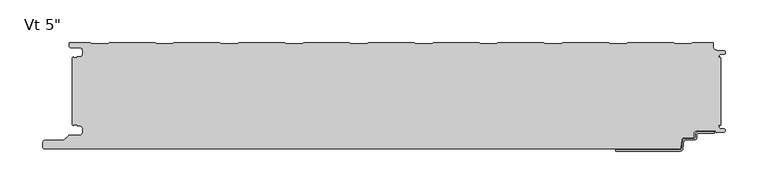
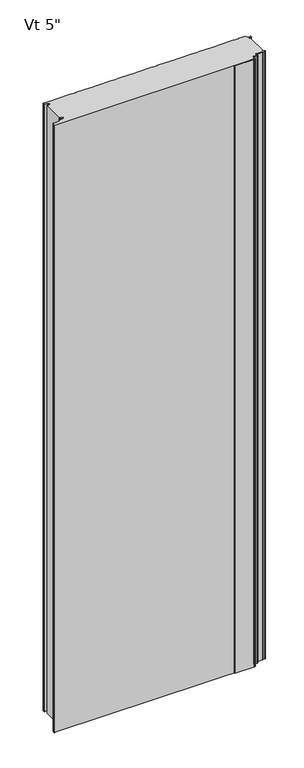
"""IFC4 building model written with IfcOpenShell, lengths in millimetres: plate geometry."""

from ifc_helpers import new_model, si_unit, frame, origin, place, context, project, spatial, polyline, circle_curve, source, transform, mapped, element, save
from ifc_brep_helpers import plane_surface, cylinder_surface, revolved_surface, advanced_brep


def plate_1c37ad96(model_context):
    return source(origin(), model_context, "Body", "AdvancedBrep", [
        advanced_brep(
        [(354.8464083, -105.9008679, 0.0), (373.5916083, -105.9008679, 0.0), (373.5916083, -107.4248679, 0.0), (354.8464083, -107.4248679, 0.0), (353.3224083, -108.9488679, 0.0), (353.3224083, -112.0476679, 0.0), (349.8680083, -115.5020679, 0.0), (338.655451, -115.5020679, 0.0), (337.8963506, -116.1976552, 0.0), (336.701523, -125.7416507, 0.0), (333.6651216, -128.524, 0.0), (258.0978083, -128.5360323, 0.0), (258.0978083, -127.0, 0.0), (333.6651216, -127.0, 0.0), (335.1833223, -125.6088254, 0.0), (336.3781499, -116.0648299, 0.0), (338.655451, -113.9780679, 0.0), (349.8680083, -113.9780679, 0.0), (351.7984083, -112.0476679, 0.0), (351.7984083, -108.9488679, 0.0), (354.8464083, -105.9008679, 2400.0), (351.7984083, -108.9488679, 2400.0), (351.7984083, -112.0476679, 2400.0), (349.8680083, -113.9780679, 2400.0), (338.655451, -113.9780679, 2400.0), (336.3781499, -116.0648299, 2400.0), (335.1833223, -125.6088254, 2400.0), (333.6651216, -127.0, 2400.0), (258.0978083, -127.0, 2400.0), (258.0978083, -128.5360323, 2400.0), (333.6651216, -128.5360323, 2400.0), (336.701523, -125.7416507, 2400.0), (337.8963506, -116.1976552, 2400.0), (338.655451, -115.5020679, 2400.0), (349.8680083, -115.5020679, 2400.0), (353.3224083, -112.0476679, 2400.0), (353.3224083, -108.9488679, 2400.0), (354.8464083, -107.4248679, 2400.0), (373.5916083, -107.4248679, 2400.0), (373.5916083, -105.9008679, 2400.0)],
        [
            (0, 1),
            (1, 2),
            (2, 3),
            (3, 4, circle_curve(frame((354.8464083, -108.9488679, 0.0), z_axis=(0.0, 0.0, 1.0), x_axis=(0.0, 1.0, 0.0)), 1.524)),
            (4, 5),
            (5, 6, circle_curve(frame((349.8680083, -112.0476679, 0.0), z_axis=(0.0, 0.0, -1.0), x_axis=(0.0, 1.0, 0.0)), 3.4544)),
            (6, 7),
            (7, 8, circle_curve(frame((338.655451, -116.2640679, 0.0), z_axis=(0.0, 0.0, 1.0), x_axis=(0.0, 1.0, 0.0)), 0.762)),
            (8, 9),
            (9, 10, circle_curve(frame((333.6651216, -125.476, 0.0), z_axis=(0.0, 0.0, -1.0), x_axis=(0.0, 1.0, 0.0)), 3.048)),
            (10, 11),
            (11, 12),
            (12, 13),
            (13, 14, circle_curve(frame((333.6651216, -125.476, 0.0), z_axis=(0.0, 0.0, 1.0), x_axis=(0.0, 1.0, 0.0)), 1.524)),
            (14, 15),
            (15, 16, circle_curve(frame((338.655451, -116.2640679, 0.0), z_axis=(0.0, 0.0, -1.0), x_axis=(0.0, 1.0, 0.0)), 2.286)),
            (16, 17),
            (17, 18, circle_curve(frame((349.8680083, -112.0476679, 0.0), z_axis=(0.0, 0.0, 1.0), x_axis=(0.0, 1.0, 0.0)), 1.9304)),
            (18, 19),
            (19, 0, circle_curve(frame((354.8464083, -108.9488679, 0.0), z_axis=(0.0, 0.0, -1.0), x_axis=(0.0, 1.0, 0.0)), 3.048)),
            (20, 21, circle_curve(frame((354.8464083, -108.9488679, 2400.0), z_axis=(0.0, 0.0, 1.0), x_axis=(0.0, 1.0, 0.0)), 3.048)),
            (21, 22),
            (22, 23, circle_curve(frame((349.8680083, -112.0476679, 2400.0), z_axis=(0.0, 0.0, -1.0), x_axis=(0.0, 1.0, 0.0)), 1.9304)),
            (23, 24),
            (24, 25, circle_curve(frame((338.655451, -116.2640679, 2400.0), z_axis=(0.0, 0.0, 1.0), x_axis=(0.0, 1.0, 0.0)), 2.286)),
            (25, 26),
            (26, 27, circle_curve(frame((333.6651216, -125.476, 2400.0), z_axis=(0.0, 0.0, -1.0), x_axis=(0.0, 1.0, 0.0)), 1.524)),
            (27, 28),
            (28, 29),
            (29, 30),
            (30, 31, circle_curve(frame((333.6651216, -125.476, 2400.0), z_axis=(0.0, 0.0, 1.0), x_axis=(0.0, 1.0, 0.0)), 3.048)),
            (31, 32),
            (32, 33, circle_curve(frame((338.655451, -116.2640679, 2400.0), z_axis=(0.0, 0.0, -1.0), x_axis=(0.0, 1.0, 0.0)), 0.762)),
            (33, 34),
            (34, 35, circle_curve(frame((349.8680083, -112.0476679, 2400.0), z_axis=(0.0, 0.0, 1.0), x_axis=(0.0, 1.0, 0.0)), 3.4544)),
            (35, 36),
            (36, 37, circle_curve(frame((354.8464083, -108.9488679, 2400.0), z_axis=(0.0, 0.0, -1.0), x_axis=(0.0, 1.0, 0.0)), 1.524)),
            (37, 38),
            (38, 39),
            (39, 20),
            (2, 38),
            (37, 3),
            (15, 25),
            (24, 16),
            (7, 33),
            (32, 8),
            (5, 35),
            (34, 6),
            (1, 39),
            (36, 4),
            (9, 31),
            (30, 10),
            (13, 27),
            (26, 14),
            (0, 20),
            (12, 28),
            (29, 11),
            (23, 17),
            (18, 22),
            (21, 19),
        ],
        [
            plane_surface(frame((373.5916083, -127.0, 0.0), z_axis=(0.0, 0.0, -1.0), x_axis=(-1.0, 0.0, 0.0))),
            plane_surface(frame((373.5916083, -127.0, 2400.0), z_axis=(0.0, 0.0, 1.0), x_axis=(-1.0, 0.0, 0.0))),
            plane_surface(frame((354.8464083, -107.4248679, 0.0), z_axis=(0.0, -1.0, 0.0), x_axis=(0.0, 0.0, 1.0))),
            cylinder_surface(frame((338.655451, -116.2640679, 0.0), z_axis=(0.0, 0.0, -1.0), x_axis=(0.0, 1.0, 0.0)), 2.286),
            revolved_surface(polyline([(338.655451, -115.5020679, 2400.0), (338.655451, -115.5020679, 0.0)]), (338.655451, -116.2640679, 0.0), (0.0, 0.0, 1.0)),
            cylinder_surface(frame((349.8680083, -112.0476679, 0.0), z_axis=(0.0, 0.0, -1.0), x_axis=(0.0, 1.0, 0.0)), 3.4544),
            plane_surface(frame((373.5916083, -107.4248679, 0.0), z_axis=(1.0, 0.0, 0.0), x_axis=(0.0, 0.0, 1.0))),
            revolved_surface(polyline([(354.8464083, -107.4248679, 2400.0), (354.8464083, -107.4248679, 0.0)]), (354.8464083, -108.9488679, 0.0), (0.0, 0.0, 1.0)),
            cylinder_surface(frame((333.6651216, -125.476, 0.0), z_axis=(0.0, 0.0, -1.0), x_axis=(0.0, 1.0, 0.0)), 3.048),
            revolved_surface(polyline([(333.6651216, -123.952, 2400.0), (333.6651216, -123.952, 0.0)]), (333.6651216, -125.476, 0.0), (0.0, 0.0, 1.0)),
            plane_surface(frame((373.5916083, -105.9008679, 0.0), z_axis=(0.0, 1.0, 0.0), x_axis=(0.0, 0.0, 1.0))),
            plane_surface(frame((336.3781499, -116.0648299, 0.0), z_axis=(-0.9922544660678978, 0.12422187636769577, 0.0), x_axis=(0.0, 0.0, 1.0))),
            plane_surface(frame((333.6651216, -127.0, 0.0), z_axis=(0.0, 1.0, 0.0), x_axis=(0.0, 0.0, 1.0))),
            plane_surface(frame((336.701523, -125.7416507, 0.0), z_axis=(0.9922544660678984, -0.12422187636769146, 0.0), x_axis=(0.0, 0.0, 1.0))),
            plane_surface(frame((353.3224083, -112.0476679, 0.0), z_axis=(1.0, 0.0, 0.0), x_axis=(0.0, 0.0, 1.0))),
            plane_surface(frame((258.0978083, -128.5360323, 0.0), z_axis=(0.0, -1.0, 0.0), x_axis=(0.0, 0.0, 1.0))),
            plane_surface(frame((258.0978083, -127.0, 0.0), z_axis=(-1.0, 0.0, 0.0), x_axis=(0.0, 0.0, 1.0))),
            plane_surface(frame((349.8680083, -113.9780679, 0.0), z_axis=(0.0, 1.0, 0.0), x_axis=(0.0, 0.0, 1.0))),
            plane_surface(frame((351.7984083, -108.9488679, 0.0), z_axis=(-1.0, 0.0, 0.0), x_axis=(0.0, 0.0, 1.0))),
            plane_surface(frame((338.655451, -115.5020679, 0.0), z_axis=(0.0, -1.0, 0.0), x_axis=(0.0, 0.0, 1.0))),
            revolved_surface(polyline([(349.8680083, -110.11726789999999, 2400.0), (349.8680083, -110.11726789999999, 0.0)]), (349.8680083, -112.0476679, 0.0), (0.0, 0.0, 1.0)),
            cylinder_surface(frame((354.8464083, -108.9488679, 0.0), z_axis=(0.0, 0.0, -1.0), x_axis=(0.0, 1.0, 0.0)), 3.048),
        ],
        [
            (0, [[1, 2, 3, 4, 5, 6, 7, 8, 9, 10, 11, 12, 13, 14, 15, 16, 17, 18, 19, 20]]),
            (1, [[21, 22, 23, 24, 25, 26, 27, 28, 29, 30, 31, 32, 33, 34, 35, 36, 37, 38, 39, 40]]),
            (2, [[41, -38, 42, -3]]),
            (3, [[43, -25, 44, -16]]),
            (4, [[45, -33, 46, -8]]),
            (5, [[47, -35, 48, -6]]),
            (6, [[49, -39, -41, -2]]),
            (7, [[-42, -37, 50, -4]]),
            (8, [[51, -31, 52, -10]]),
            (9, [[53, -27, 54, -14]]),
            (10, [[55, -40, -49, -1]]),
            (11, [[-54, -26, -43, -15]]),
            (12, [[56, -28, -53, -13]]),
            (13, [[-46, -32, -51, -9]]),
            (14, [[-50, -36, -47, -5]]),
            (15, [[-52, -30, 57, -11]]),
            (16, [[-57, -29, -56, -12]]),
            (17, [[-44, -24, 58, -17]]),
            (18, [[59, -22, 60, -19]]),
            (19, [[-48, -34, -45, -7]]),
            (20, [[-58, -23, -59, -18]]),
            (21, [[-60, -21, -55, -20]]),
        ],
    ),
        advanced_brep(
        [(-379.9683001, -98.6708722, 2400.0), (-378.7671761, -97.5013975, 2400.0), (-375.0087827, -97.5013975, 2400.0), (-375.0087827, -98.8998764, 2400.0), (-372.3096717, -98.8998764, 2400.0), (-368.9596764, -102.2498717, 2400.0), (-368.9596764, -106.6498629, 2400.0), (-372.3096717, -109.9998582, 2400.0), (-384.1205608, -109.9998582, 2400.0), (-385.3226385, -110.4977751, 2400.0), (-390.8247096, -115.9998462, 2400.0), (-412.9198392, -115.9998462, 2400.0), (-415.5765709, -118.2184482, 2400.0), (-416.0125699, -123.2002691, 2400.0), (-413.4521176, -125.994594, 2400.0), (332.515622, -125.9999973, 2400.0), (334.4669057, -124.2149232, 2400.0), (335.221161, -115.7539464, 2400.0), (338.3653654, -112.9906435, 2400.0), (348.4583308, -112.9906435, 2400.0), (349.4097394, -112.0392348, 2400.0), (349.4097394, -108.8955794, 2400.0), (353.4091924, -104.8961265, 2400.0), (374.5895515, -104.8961265, 2400.0), (375.7334028, -106.8769743, 2400.0), (384.706811, -106.521714, 2400.0), (384.7037148, -102.3211364, 2400.0), (380.6977997, -102.0767215, 2400.0), (378.9686884, -100.2819089, 2400.0), (378.9686884, -97.4973623, 2400.0), (379.9686884, -97.4973623, 2400.0), (379.9686884, -99.0848623, 2400.0), (381.0, -98.0535507, 2400.0), (381.0, -18.6184498, 2400.0), (379.9686884, -17.5871382, 2400.0), (379.9686884, -19.0015261, 2400.0), (378.9686884, -19.0015261, 2400.0), (378.9686884, -16.6743434, 2400.0), (380.6513685, -14.9256402, 2400.0), (384.7921924, -14.7059795, 2400.0), (384.7931719, -10.4046415, 2400.0), (376.3016499, -9.9974338, 2400.0), (372.4787013, -6.002598, 2400.0), (372.4787013, -0.9999973, 2400.0), (347.9790963, -0.9999973, 2400.0), (346.5934634, -2.200228, 2400.0), (327.2182971, -2.200228, 2400.0), (325.8326641, -0.9999973, 2400.0), (271.7792487, -0.9999973, 2400.0), (270.3936158, -2.200228, 2400.0), (251.0184495, -2.200228, 2400.0), (249.6328165, -0.9999973, 2400.0), (195.5794011, -0.9999973, 2400.0), (194.1937682, -2.200228, 2400.0), (174.8186019, -2.200228, 2400.0), (173.4329689, -0.9999973, 2400.0), (119.3795535, -0.9999973, 2400.0), (117.9939206, -2.200228, 2400.0), (98.6187543, -2.200228, 2400.0), (97.2331213, -0.9999973, 2400.0), (43.1797059, -0.9999973, 2400.0), (41.794073, -2.200228, 2400.0), (22.4189067, -2.200228, 2400.0), (21.0332737, -0.9999973, 2400.0), (-33.0201417, -0.9999973, 2400.0), (-34.4057746, -2.200228, 2400.0), (-53.7809409, -2.200228, 2400.0), (-55.1665739, -0.9999973, 2400.0), (-109.2199893, -0.9999973, 2400.0), (-110.6056222, -2.200228, 2400.0), (-129.9807885, -2.200228, 2400.0), (-131.3664215, -0.9999973, 2400.0), (-185.4198369, -0.9999973, 2400.0), (-186.8054698, -2.200228, 2400.0), (-206.1806361, -2.200228, 2400.0), (-207.5662691, -0.9999973, 2400.0), (-261.6196845, -0.9999973, 2400.0), (-263.0053174, -2.200228, 2400.0), (-282.3804837, -2.200228, 2400.0), (-283.7661167, -0.9999973, 2400.0), (-337.8195321, -0.9999973, 2400.0), (-339.205165, -2.200228, 2400.0), (-358.5803313, -2.200228, 2400.0), (-359.965974, -0.9999889, 2400.0), (-384.4662506, -0.9999889, 2400.0), (-384.4662506, -5.2315362, 2400.0), (-382.6962564, -7.0015304, 2400.0), (-372.2762778, -7.0015304, 2400.0), (-368.976282, -10.3015263, 2400.0), (-368.976282, -14.7015175, 2400.0), (-372.2762777, -18.0015132, 2400.0), (-374.9684875, -18.0015132, 2400.0), (-374.9684875, -19.0015077, 2400.0), (-378.9686911, -19.0015077, 2400.0), (-379.9686883, -18.0015165, 2400.0), (-381.0, -19.0328281, 2400.0), (-381.0, -97.6391724, 2400.0), (-379.9683001, -98.6708722, 0.0), (-381.0, -97.6391724, 0.0), (-381.0, -19.0328281, 0.0), (-379.9686883, -18.0015165, 0.0), (-378.9686911, -19.0015077, 0.0), (-374.9684875, -19.0015077, 0.0), (-374.9684875, -18.0015132, 0.0), (-372.2762777, -18.0015132, 0.0), (-368.976282, -14.7015175, 0.0), (-368.976282, -10.3015263, 0.0), (-372.2762778, -7.0015304, 0.0), (-382.6962564, -7.0015304, 0.0), (-384.4662506, -5.2315362, 0.0), (-384.4662506, -0.9999889, 0.0), (-359.965974, -0.9999889, 0.0), (-358.5803313, -2.200228, 0.0), (-339.205165, -2.200228, 0.0), (-337.8195321, -0.9999973, 0.0), (-283.7661167, -0.9999973, 0.0), (-282.3804837, -2.200228, 0.0), (-263.0053174, -2.200228, 0.0), (-261.6196845, -0.9999973, 0.0), (-207.5662691, -0.9999973, 0.0), (-206.1806361, -2.200228, 0.0), (-186.8054698, -2.200228, 0.0), (-185.4198369, -0.9999973, 0.0), (-131.3664215, -0.9999973, 0.0), (-129.9807885, -2.200228, 0.0), (-110.6056222, -2.200228, 0.0), (-109.2199893, -0.9999973, 0.0), (-55.1665739, -0.9999973, 0.0), (-53.7809409, -2.200228, 0.0), (-34.4057746, -2.200228, 0.0), (-33.0201417, -0.9999973, 0.0), (21.0332737, -0.9999973, 0.0), (22.4189067, -2.200228, 0.0), (41.794073, -2.200228, 0.0), (43.1797059, -0.9999973, 0.0), (97.2331213, -0.9999973, 0.0), (98.6187543, -2.200228, 0.0), (117.9939206, -2.200228, 0.0), (119.3795535, -0.9999973, 0.0), (173.4329689, -0.9999973, 0.0), (174.8186019, -2.200228, 0.0), (194.1937682, -2.200228, 0.0), (195.5794011, -0.9999973, 0.0), (249.6328165, -0.9999973, 0.0), (251.0184495, -2.200228, 0.0), (270.3936158, -2.200228, 0.0), (271.7792487, -0.9999973, 0.0), (325.8326641, -0.9999973, 0.0), (327.2182971, -2.200228, 0.0), (346.5934634, -2.200228, 0.0), (347.9790963, -0.9999973, 0.0), (372.4787013, -0.9999973, 0.0), (372.4787013, -6.002598, 0.0), (376.3016499, -9.9974338, 0.0), (384.7931719, -10.4046415, 0.0), (384.7921924, -14.7059795, 0.0), (380.6513685, -14.9256402, 0.0), (378.9686884, -16.6743434, 0.0), (378.9686884, -19.0015261, 0.0), (379.9686884, -19.0015261, 0.0), (379.9686884, -17.5871382, 0.0), (381.0, -18.6184498, 0.0), (381.0, -98.0535507, 0.0), (379.9686884, -99.0848623, 0.0), (379.9686884, -97.4973623, 0.0), (378.9686884, -97.4973623, 0.0), (378.9686884, -100.2819089, 0.0), (380.6977997, -102.0767215, 0.0), (384.7037148, -102.3211364, 0.0), (384.706811, -106.521714, 0.0), (375.7334028, -106.8769743, 0.0), (374.5895515, -104.8961265, 0.0), (353.4091924, -104.8961265, 0.0), (349.4097394, -108.8955794, 0.0), (349.4097394, -112.0392348, 0.0), (348.4583308, -112.9906435, 0.0), (338.3653654, -112.9906435, 0.0), (335.221161, -115.7539464, 0.0), (334.4669057, -124.2149232, 0.0), (332.515622, -125.9999973, 0.0), (-413.4521176, -125.9999973, 0.0), (-416.0125699, -123.2002691, 0.0), (-415.5765709, -118.2184482, 0.0), (-412.9198392, -115.9998462, 0.0), (-390.8247096, -115.9998462, 0.0), (-385.3226385, -110.4977751, 0.0), (-384.1205608, -109.9998582, 0.0), (-372.3096717, -109.9998582, 0.0), (-368.9596764, -106.6498629, 0.0), (-368.9596764, -102.2498717, 0.0), (-372.3096717, -98.8998764, 0.0), (-375.0087827, -98.8998764, 0.0), (-375.0087827, -97.5013975, 0.0), (-378.7671761, -97.5013975, 0.0)],
        [
            (0, 1, circle_curve(frame((-378.7686908, -98.7013942, 2400.0), z_axis=(0.0, 0.0, -1.0), x_axis=(-1.0, 0.0, 0.0)), 1.1999976)),
            (1, 2),
            (2, 3),
            (3, 4),
            (4, 5, circle_curve(frame((-372.3096717, -102.2498717, 2400.0), z_axis=(0.0, 0.0, -1.0), x_axis=(-1.0, 0.0, 0.0)), 3.3499953)),
            (5, 6),
            (6, 7, circle_curve(frame((-372.3096717, -106.6498629, 2400.0), z_axis=(0.0, 0.0, -1.0), x_axis=(-1.0, 0.0, 0.0)), 3.3499953)),
            (7, 8),
            (8, 9, circle_curve(frame((-384.1205608, -111.6998528, 2400.0), z_axis=(0.0, 0.0, 1.0), x_axis=(-1.0, 0.0, 0.0)), 1.6999946)),
            (9, 10),
            (10, 11),
            (11, 12, circle_curve(frame((-412.9198392, -118.6998388, 2400.0), z_axis=(0.0, 0.0, 1.0), x_axis=(-1.0, 0.0, 0.0)), 2.6999926)),
            (12, 13),
            (13, 14, circle_curve(frame((-413.4521176, -123.4243547, 2400.0), z_axis=(0.0, 0.0, 1.0), x_axis=(-1.0, 0.0, 0.0)), 2.5702393)),
            (14, 15),
            (15, 16, circle_curve(frame((332.515622, -124.0409756, 2400.0), z_axis=(0.0, 0.0, 1.0), x_axis=(-1.0, 0.0, 0.0)), 1.9590216)),
            (16, 17),
            (17, 18, circle_curve(frame((338.2396267, -116.0180294, 2400.0), z_axis=(0.0, 0.0, -1.0), x_axis=(-1.0, 0.0, 0.0)), 3.0299959)),
            (18, 19),
            (19, 20, circle_curve(frame((348.4583308, -112.0392348, 2400.0), z_axis=(0.0, 0.0, 1.0), x_axis=(-1.0, 0.0, 0.0)), 0.9514087)),
            (20, 21),
            (21, 22, circle_curve(frame((353.4091924, -108.8955794, 2400.0), z_axis=(0.0, 0.0, -1.0), x_axis=(-1.0, 0.0, 0.0)), 3.9994529)),
            (22, 23),
            (23, 24),
            (24, 25),
            (25, 26, circle_curve(frame((384.6236622, -104.4214853, 2400.0), z_axis=(0.0, 0.0, 1.0), x_axis=(-1.0, 0.0, 0.0)), 2.1018739)),
            (26, 27),
            (27, 28, circle_curve(frame((380.8099653, -100.2383479, 2400.0), z_axis=(0.0, 0.0, -1.0), x_axis=(-1.0, 0.0, 0.0)), 1.8417922)),
            (28, 29),
            (29, 30),
            (30, 31),
            (31, 32),
            (32, 33),
            (33, 34),
            (34, 35),
            (35, 36),
            (36, 37),
            (37, 38, circle_curve(frame((380.7186869, -16.6743434, 2400.0), z_axis=(0.0, 0.0, -1.0), x_axis=(1.0, 0.0, 0.0)), 1.7499985)),
            (38, 39),
            (39, 40, circle_curve(frame((384.6781032, -12.5552844, 2400.0), z_axis=(0.0, 0.0, 1.0), x_axis=(1.0, 0.0, 0.0)), 2.153719)),
            (40, 41),
            (41, 42, circle_curve(frame((376.4939817, -5.9867311, 2400.0), z_axis=(0.0, 0.0, -1.0), x_axis=(1.0, 0.0, 0.0)), 4.0153117)),
            (42, 43),
            (43, 44),
            (44, 45),
            (45, 46),
            (46, 47),
            (47, 48),
            (48, 49),
            (49, 50),
            (50, 51),
            (51, 52),
            (52, 53),
            (53, 54),
            (54, 55),
            (55, 56),
            (56, 57),
            (57, 58),
            (58, 59),
            (59, 60),
            (60, 61),
            (61, 62),
            (62, 63),
            (63, 64),
            (64, 65),
            (65, 66),
            (66, 67),
            (67, 68),
            (68, 69),
            (69, 70),
            (70, 71),
            (71, 72),
            (72, 73),
            (73, 74),
            (74, 75),
            (75, 76),
            (76, 77),
            (77, 78),
            (78, 79),
            (79, 80),
            (80, 81),
            (81, 82),
            (82, 83),
            (83, 84),
            (84, 85),
            (85, 86, circle_curve(frame((-382.6962564, -5.2315362, 2400.0), z_axis=(0.0, 0.0, 1.0), x_axis=(1.0, 0.0, 0.0)), 1.7699942)),
            (86, 87),
            (87, 88, circle_curve(frame((-372.2762778, -10.3015263, 2400.0), z_axis=(0.0, 0.0, -1.0), x_axis=(1.0, 0.0, 0.0)), 3.2999959)),
            (88, 89),
            (89, 90, circle_curve(frame((-372.2762777, -14.7015175, 2400.0), z_axis=(0.0, 0.0, -1.0), x_axis=(1.0, 0.0, 0.0)), 3.2999957)),
            (90, 91),
            (91, 92),
            (92, 93),
            (93, 94, circle_curve(frame((-378.9686911, -18.0015105, 2400.0), z_axis=(0.0, 0.0, -1.0), x_axis=(1.0, 0.0, 0.0)), 0.9999972)),
            (94, 95),
            (95, 96),
            (96, 0),
            (97, 98),
            (98, 99),
            (99, 100),
            (100, 101, circle_curve(frame((-378.9686911, -18.0015105, 0.0), z_axis=(0.0, 0.0, 1.0), x_axis=(1.0, 0.0, 0.0)), 0.9999972)),
            (101, 102),
            (102, 103),
            (103, 104),
            (104, 105, circle_curve(frame((-372.2762777, -14.7015175, 0.0), z_axis=(0.0, 0.0, 1.0), x_axis=(1.0, 0.0, 0.0)), 3.2999957)),
            (105, 106),
            (106, 107, circle_curve(frame((-372.2762778, -10.3015263, 0.0), z_axis=(0.0, 0.0, 1.0), x_axis=(1.0, 0.0, 0.0)), 3.2999959)),
            (107, 108),
            (108, 109, circle_curve(frame((-382.6962564, -5.2315362, 0.0), z_axis=(0.0, 0.0, -1.0), x_axis=(1.0, 0.0, 0.0)), 1.7699942)),
            (109, 110),
            (110, 111),
            (111, 112),
            (112, 113),
            (113, 114),
            (114, 115),
            (115, 116),
            (116, 117),
            (117, 118),
            (118, 119),
            (119, 120),
            (120, 121),
            (121, 122),
            (122, 123),
            (123, 124),
            (124, 125),
            (125, 126),
            (126, 127),
            (127, 128),
            (128, 129),
            (129, 130),
            (130, 131),
            (131, 132),
            (132, 133),
            (133, 134),
            (134, 135),
            (135, 136),
            (136, 137),
            (137, 138),
            (138, 139),
            (139, 140),
            (140, 141),
            (141, 142),
            (142, 143),
            (143, 144),
            (144, 145),
            (145, 146),
            (146, 147),
            (147, 148),
            (148, 149),
            (149, 150),
            (150, 151),
            (151, 152),
            (152, 153, circle_curve(frame((376.4939817, -5.9867311, 0.0), z_axis=(0.0, 0.0, 1.0), x_axis=(1.0, 0.0, 0.0)), 4.0153117)),
            (153, 154),
            (154, 155, circle_curve(frame((384.6781032, -12.5552844, 0.0), z_axis=(0.0, 0.0, -1.0), x_axis=(1.0, 0.0, 0.0)), 2.153719)),
            (155, 156),
            (156, 157, circle_curve(frame((380.7186869, -16.6743434, 0.0), z_axis=(0.0, 0.0, 1.0), x_axis=(1.0, 0.0, 0.0)), 1.7499985)),
            (157, 158),
            (158, 159),
            (159, 160),
            (160, 161),
            (161, 162),
            (162, 163),
            (163, 164),
            (164, 165),
            (165, 166),
            (166, 167, circle_curve(frame((380.8099653, -100.2383479, 0.0), z_axis=(0.0, 0.0, 1.0), x_axis=(-1.0, 0.0, 0.0)), 1.8417922)),
            (167, 168),
            (168, 169, circle_curve(frame((384.6236622, -104.4214853, 0.0), z_axis=(0.0, 0.0, -1.0), x_axis=(-1.0, 0.0, 0.0)), 2.1018739)),
            (169, 170),
            (170, 171),
            (171, 172),
            (172, 173, circle_curve(frame((353.4091924, -108.8955794, 0.0), z_axis=(0.0, 0.0, 1.0), x_axis=(-1.0, 0.0, 0.0)), 3.9994529)),
            (173, 174),
            (174, 175, circle_curve(frame((348.4583308, -112.0392348, 0.0), z_axis=(0.0, 0.0, -1.0), x_axis=(-1.0, 0.0, 0.0)), 0.9514087)),
            (175, 176),
            (176, 177, circle_curve(frame((338.2396267, -116.0180294, 0.0), z_axis=(0.0, 0.0, 1.0), x_axis=(-1.0, 0.0, 0.0)), 3.0299959)),
            (177, 178),
            (178, 179, circle_curve(frame((332.515622, -124.0409756, 0.0), z_axis=(0.0, 0.0, -1.0), x_axis=(-1.0, 0.0, 0.0)), 1.9590216)),
            (179, 180),
            (180, 181, circle_curve(frame((-413.4521176, -123.4243547, 0.0), z_axis=(0.0, 0.0, -1.0), x_axis=(-1.0, 0.0, 0.0)), 2.5702393)),
            (181, 182),
            (182, 183, circle_curve(frame((-412.9198392, -118.6998388, 0.0), z_axis=(0.0, 0.0, -1.0), x_axis=(-1.0, 0.0, 0.0)), 2.6999926)),
            (183, 184),
            (184, 185),
            (185, 186, circle_curve(frame((-384.1205608, -111.6998528, 0.0), z_axis=(0.0, 0.0, -1.0), x_axis=(-1.0, 0.0, 0.0)), 1.6999946)),
            (186, 187),
            (187, 188, circle_curve(frame((-372.3096717, -106.6498629, 0.0), z_axis=(0.0, 0.0, 1.0), x_axis=(-1.0, 0.0, 0.0)), 3.3499953)),
            (188, 189),
            (189, 190, circle_curve(frame((-372.3096717, -102.2498717, 0.0), z_axis=(0.0, 0.0, 1.0), x_axis=(-1.0, 0.0, 0.0)), 3.3499953)),
            (190, 191),
            (191, 192),
            (192, 193),
            (193, 97, circle_curve(frame((-378.7686908, -98.7013942, 0.0), z_axis=(0.0, 0.0, 1.0), x_axis=(-1.0, 0.0, 0.0)), 1.1999976)),
            (96, 98),
            (97, 0),
            (95, 99),
            (32, 162),
            (161, 33),
            (31, 163),
            (30, 164),
            (29, 165),
            (28, 166),
            (27, 167),
            (26, 168),
            (25, 169),
            (24, 170),
            (23, 171),
            (22, 172),
            (21, 173),
            (20, 174),
            (19, 175),
            (18, 176),
            (17, 177),
            (16, 178),
            (15, 179),
            (14, 180),
            (13, 181),
            (12, 182),
            (11, 183),
            (10, 184),
            (9, 185),
            (8, 186),
            (7, 187),
            (6, 188),
            (5, 189),
            (4, 190),
            (3, 191),
            (2, 192),
            (1, 193),
            (94, 100),
            (93, 101),
            (92, 102),
            (91, 103),
            (90, 104),
            (89, 105),
            (88, 106),
            (87, 107),
            (86, 108),
            (85, 109),
            (84, 110),
            (83, 111),
            (82, 112),
            (81, 113),
            (80, 114),
            (79, 115),
            (78, 116),
            (77, 117),
            (76, 118),
            (75, 119),
            (74, 120),
            (73, 121),
            (72, 122),
            (71, 123),
            (70, 124),
            (69, 125),
            (68, 126),
            (67, 127),
            (66, 128),
            (65, 129),
            (64, 130),
            (63, 131),
            (62, 132),
            (61, 133),
            (60, 134),
            (59, 135),
            (58, 136),
            (57, 137),
            (56, 138),
            (55, 139),
            (54, 140),
            (53, 141),
            (52, 142),
            (51, 143),
            (50, 144),
            (49, 145),
            (48, 146),
            (47, 147),
            (46, 148),
            (45, 149),
            (44, 150),
            (43, 151),
            (42, 152),
            (41, 153),
            (40, 154),
            (39, 155),
            (38, 156),
            (37, 157),
            (36, 158),
            (35, 159),
            (34, 160),
        ],
        [
            plane_surface(frame((0.0, -125.9999973, 2400.0), z_axis=(0.0, 0.0, 1.0), x_axis=(0.0, -1.0, 0.0))),
            plane_surface(frame((0.0, -125.9999973, 0.0), z_axis=(0.0, 0.0, -1.0), x_axis=(0.0, -1.0, 0.0))),
            plane_surface(frame((-379.9683001, -98.6708722, 2400.0), z_axis=(-0.707106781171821, -0.707106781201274, 0.0), x_axis=(0.0, 0.0, -1.0))),
            plane_surface(frame((-381.0, -97.6391724, 2400.0), z_axis=(-1.0, 0.0, 0.0), x_axis=(0.0, 0.0, -1.0))),
            plane_surface(frame((381.0, -96.6391724, 2400.0), z_axis=(1.0, 0.0, 0.0), x_axis=(0.0, 0.0, -1.0))),
            plane_surface(frame((381.0, -98.0535507, 2400.0), z_axis=(0.7071067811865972, -0.7071067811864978, 0.0), x_axis=(0.0, 0.0, -1.0))),
            plane_surface(frame((379.9686884, -99.0848623, 2400.0), z_axis=(-1.0, 0.0, 0.0), x_axis=(0.0, 0.0, -1.0))),
            plane_surface(frame((379.9686884, -97.4973623, 2400.0), z_axis=(0.0, -1.0, 0.0), x_axis=(0.0, 0.0, -1.0))),
            plane_surface(frame((378.9686884, -97.4973623, 2400.0), z_axis=(1.0, 0.0, 0.0), x_axis=(0.0, 0.0, -1.0))),
            revolved_surface(polyline([(378.9681731, -100.2383479, 0.0), (378.9681731, -100.2383479, 2400.0)]), (380.8099653, -100.2383479, 2400.0), (0.0, 0.0, -1.0)),
            plane_surface(frame((380.6977997, -102.0767215, 2400.0), z_axis=(0.06090025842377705, 0.9981438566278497, 0.0), x_axis=(0.0, 0.0, -1.0))),
            cylinder_surface(frame((384.6236622, -104.4214853, 2400.0), z_axis=(0.0, 0.0, 1.0), x_axis=(-1.0, 0.0, 0.0)), 2.1018739),
            plane_surface(frame((384.706811, -106.521714, 2400.0), z_axis=(0.039559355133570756, -0.9992172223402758, 0.0), x_axis=(0.0, 0.0, -1.0))),
            plane_surface(frame((375.7334028, -106.8769743, 2400.0), z_axis=(-0.8659859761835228, -0.5000682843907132, 0.0), x_axis=(0.0, 0.0, -1.0))),
            plane_surface(frame((374.5895515, -104.8961265, 2400.0), z_axis=(0.0, -1.0, 0.0), x_axis=(0.0, 0.0, -1.0))),
            revolved_surface(polyline([(349.4097395, -108.8955794, 0.0), (349.4097395, -108.8955794, 2400.0)]), (353.4091924, -108.8955794, 2400.0), (0.0, 0.0, -1.0)),
            plane_surface(frame((349.4097394, -108.8955794, 2400.0), z_axis=(1.0, 0.0, 0.0), x_axis=(0.0, 0.0, -1.0))),
            cylinder_surface(frame((348.4583308, -112.0392348, 2400.0), z_axis=(0.0, 0.0, 1.0), x_axis=(-1.0, 0.0, 0.0)), 0.9514087),
            plane_surface(frame((348.4583308, -112.9906435, 2400.0), z_axis=(0.0, -1.0, 0.0), x_axis=(0.0, 0.0, -1.0))),
            revolved_surface(polyline([(335.20963079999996, -116.0180294, 0.0), (335.20963079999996, -116.0180294, 2400.0)]), (338.2396267, -116.0180294, 2400.0), (0.0, 0.0, -1.0)),
            plane_surface(frame((335.221161, -115.7539464, 2400.0), z_axis=(0.9960500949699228, -0.08879306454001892, 0.0), x_axis=(0.0, 0.0, -1.0))),
            cylinder_surface(frame((332.515622, -124.0409756, 2400.0), z_axis=(0.0, 0.0, 1.0), x_axis=(-1.0, 0.0, 0.0)), 1.9590216),
            plane_surface(frame((332.515622, -125.9999973, 2400.0), z_axis=(0.0, -1.0, 0.0), x_axis=(0.0, 0.0, -1.0))),
            cylinder_surface(frame((-413.4521176, -123.4243547, 2400.0), z_axis=(0.0, 0.0, 1.0), x_axis=(-1.0, 0.0, 0.0)), 2.5702393),
            plane_surface(frame((-416.0125699, -123.2002691, 2400.0), z_axis=(-0.9961921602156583, 0.08718474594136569, 0.0), x_axis=(0.0, 0.0, -1.0))),
            cylinder_surface(frame((-412.9198392, -118.6998388, 2400.0), z_axis=(0.0, 0.0, 1.0), x_axis=(-1.0, 0.0, 0.0)), 2.6999926),
            plane_surface(frame((-412.9198392, -115.9998462, 2400.0), z_axis=(0.0, 1.0, 0.0), x_axis=(0.0, 0.0, -1.0))),
            plane_surface(frame((-390.8247096, -115.9998462, 2400.0), z_axis=(-0.7071067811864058, 0.7071067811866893, 0.0), x_axis=(0.0, 0.0, -1.0))),
            cylinder_surface(frame((-384.1205608, -111.6998528, 2400.0), z_axis=(0.0, 0.0, 1.0), x_axis=(-1.0, 0.0, 0.0)), 1.6999946),
            plane_surface(frame((-384.1205608, -109.9998582, 2400.0), z_axis=(0.0, 1.0, 0.0), x_axis=(0.0, 0.0, -1.0))),
            revolved_surface(polyline([(-375.659667, -106.6498629, 0.0), (-375.659667, -106.6498629, 2400.0)]), (-372.3096717, -106.6498629, 2400.0), (0.0, 0.0, -1.0)),
            plane_surface(frame((-368.9596764, -106.6498629, 2400.0), z_axis=(-1.0, 0.0, 0.0), x_axis=(0.0, 0.0, -1.0))),
            revolved_surface(polyline([(-375.659667, -102.2498717, 0.0), (-375.659667, -102.2498717, 2400.0)]), (-372.3096717, -102.2498717, 2400.0), (0.0, 0.0, -1.0)),
            plane_surface(frame((-372.3096717, -98.8998764, 2400.0), z_axis=(0.0, -1.0, 0.0), x_axis=(0.0, 0.0, -1.0))),
            plane_surface(frame((-375.0087827, -98.8998764, 2400.0), z_axis=(-1.0, 0.0, 0.0), x_axis=(0.0, 0.0, -1.0))),
            plane_surface(frame((-375.0087827, -97.5013975, 2400.0), z_axis=(0.0, -1.0, 0.0), x_axis=(0.0, 0.0, -1.0))),
            revolved_surface(polyline([(-379.9686884, -98.7013942, 0.0), (-379.9686884, -98.7013942, 2400.0)]), (-378.7686908, -98.7013942, 2400.0), (0.0, 0.0, -1.0)),
            plane_surface(frame((-381.0, -19.0328281, 2400.0), z_axis=(-0.70710678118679, 0.707106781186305, 0.0), x_axis=(0.0, 0.0, -1.0))),
            revolved_surface(polyline([(-377.9686939, -18.0015105, 0.0), (-377.9686939, -18.0015105, 2400.0)]), (-378.9686911, -18.0015105, 2400.0), (0.0, 0.0, -1.0)),
            plane_surface(frame((-378.9686911, -19.0015077, 2400.0), z_axis=(0.0, 1.0, 0.0), x_axis=(0.0, 0.0, -1.0))),
            plane_surface(frame((-374.9684875, -19.0015077, 2400.0), z_axis=(-1.0, 0.0, 0.0), x_axis=(0.0, 0.0, -1.0))),
            plane_surface(frame((-374.9684875, -18.0015132, 2400.0), z_axis=(0.0, 1.0, 0.0), x_axis=(0.0, 0.0, -1.0))),
            revolved_surface(polyline([(-368.97628199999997, -14.7015175, 0.0), (-368.97628199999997, -14.7015175, 2400.0)]), (-372.2762777, -14.7015175, 2400.0), (0.0, 0.0, -1.0)),
            plane_surface(frame((-368.976282, -14.7015175, 2400.0), z_axis=(-1.0, 0.0, 0.0), x_axis=(0.0, 0.0, -1.0))),
            revolved_surface(polyline([(-368.9762819, -10.3015263, 0.0), (-368.9762819, -10.3015263, 2400.0)]), (-372.2762778, -10.3015263, 2400.0), (0.0, 0.0, -1.0)),
            plane_surface(frame((-372.2762778, -7.0015304, 2400.0), z_axis=(0.0, -1.0, 0.0), x_axis=(0.0, 0.0, -1.0))),
            cylinder_surface(frame((-382.6962564, -5.2315362, 2400.0), z_axis=(0.0, 0.0, 1.0), x_axis=(1.0, 0.0, 0.0)), 1.7699942),
            plane_surface(frame((-384.4662506, -5.2315362, 2400.0), z_axis=(-1.0, 0.0, 0.0), x_axis=(0.0, 0.0, -1.0))),
            plane_surface(frame((-384.4662506, -0.9999889, 2400.0), z_axis=(0.0, 1.0, 0.0), x_axis=(0.0, 0.0, -1.0))),
            plane_surface(frame((-359.965974, -0.9999889, 2400.0), z_axis=(0.6547276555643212, 0.7558648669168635, 0.0), x_axis=(0.0, 0.0, -1.0))),
            plane_surface(frame((-358.5803313, -2.200228, 2400.0), z_axis=(0.0, 1.0, 0.0), x_axis=(0.0, 0.0, -1.0))),
            plane_surface(frame((-339.205165, -2.200228, 2400.0), z_axis=(-0.6547276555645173, 0.7558648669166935, 0.0), x_axis=(0.0, 0.0, -1.0))),
            plane_surface(frame((-337.8195321, -0.9999973, 2400.0), z_axis=(0.0, 1.0, 0.0), x_axis=(0.0, 0.0, -1.0))),
            plane_surface(frame((-283.7661167, -0.9999973, 2400.0), z_axis=(0.65472765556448, 0.7558648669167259, 0.0), x_axis=(0.0, 0.0, -1.0))),
            plane_surface(frame((-282.3804837, -2.200228, 2400.0), z_axis=(0.0, 1.0, 0.0), x_axis=(0.0, 0.0, -1.0))),
            plane_surface(frame((-263.0053174, -2.200228, 2400.0), z_axis=(-0.6547276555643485, 0.7558648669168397, 0.0), x_axis=(0.0, 0.0, -1.0))),
            plane_surface(frame((-261.6196845, -0.9999973, 2400.0), z_axis=(0.0, 1.0, 0.0), x_axis=(0.0, 0.0, -1.0))),
            plane_surface(frame((-207.5662691, -0.9999973, 2400.0), z_axis=(0.6547276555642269, 0.7558648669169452, 0.0), x_axis=(0.0, 0.0, -1.0))),
            plane_surface(frame((-206.1806361, -2.200228, 2400.0), z_axis=(0.0, 1.0, 0.0), x_axis=(0.0, 0.0, -1.0))),
            plane_surface(frame((-186.8054698, -2.200228, 2400.0), z_axis=(-0.6547276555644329, 0.7558648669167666, 0.0), x_axis=(0.0, 0.0, -1.0))),
            plane_surface(frame((-185.4198369, -0.9999973, 2400.0), z_axis=(0.0, 1.0, 0.0), x_axis=(0.0, 0.0, -1.0))),
            plane_surface(frame((-131.3664215, -0.9999973, 2400.0), z_axis=(0.6547276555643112, 0.755864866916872, 0.0), x_axis=(0.0, 0.0, -1.0))),
            plane_surface(frame((-129.9807885, -2.200228, 2400.0), z_axis=(0.0, 1.0, 0.0), x_axis=(0.0, 0.0, -1.0))),
            plane_surface(frame((-110.6056222, -2.200228, 2400.0), z_axis=(-0.6547276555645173, 0.7558648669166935, 0.0), x_axis=(0.0, 0.0, -1.0))),
            plane_surface(frame((-109.2199893, -0.9999973, 2400.0), z_axis=(0.0, 1.0, 0.0), x_axis=(0.0, 0.0, -1.0))),
            plane_surface(frame((-55.1665739, -0.9999973, 2400.0), z_axis=(0.6547276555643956, 0.755864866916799, 0.0), x_axis=(0.0, 0.0, -1.0))),
            plane_surface(frame((-53.7809409, -2.200228, 2400.0), z_axis=(0.0, 1.0, 0.0), x_axis=(0.0, 0.0, -1.0))),
            plane_surface(frame((-34.4057746, -2.200228, 2400.0), z_axis=(-0.6547276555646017, 0.7558648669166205, 0.0), x_axis=(0.0, 0.0, -1.0))),
            plane_surface(frame((-33.0201417, -0.9999973, 2400.0), z_axis=(0.0, 1.0, 0.0), x_axis=(0.0, 0.0, -1.0))),
            plane_surface(frame((21.0332737, -0.9999973, 2400.0), z_axis=(0.65472765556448, 0.7558648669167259, 0.0), x_axis=(0.0, 0.0, -1.0))),
            plane_surface(frame((22.4189067, -2.200228, 2400.0), z_axis=(0.0, 1.0, 0.0), x_axis=(0.0, 0.0, -1.0))),
            plane_surface(frame((41.794073, -2.200228, 2400.0), z_axis=(-0.6547276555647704, 0.7558648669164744, 0.0), x_axis=(0.0, 0.0, -1.0))),
            plane_surface(frame((43.1797059, -0.9999973, 2400.0), z_axis=(0.0, 1.0, 0.0), x_axis=(0.0, 0.0, -1.0))),
            plane_surface(frame((97.2331213, -0.9999973, 2400.0), z_axis=(0.6547276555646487, 0.7558648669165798, 0.0), x_axis=(0.0, 0.0, -1.0))),
            plane_surface(frame((98.6187543, -2.200228, 2400.0), z_axis=(0.0, 1.0, 0.0), x_axis=(0.0, 0.0, -1.0))),
            plane_surface(frame((117.9939206, -2.200228, 2400.0), z_axis=(-0.6547276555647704, 0.7558648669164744, 0.0), x_axis=(0.0, 0.0, -1.0))),
            plane_surface(frame((119.3795535, -0.9999973, 2400.0), z_axis=(0.0, 1.0, 0.0), x_axis=(0.0, 0.0, -1.0))),
            plane_surface(frame((173.4329689, -0.9999973, 2400.0), z_axis=(0.6547276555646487, 0.7558648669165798, 0.0), x_axis=(0.0, 0.0, -1.0))),
            plane_surface(frame((174.8186019, -2.200228, 2400.0), z_axis=(0.0, 1.0, 0.0), x_axis=(0.0, 0.0, -1.0))),
            plane_surface(frame((194.1937682, -2.200228, 2400.0), z_axis=(-0.6547276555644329, 0.7558648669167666, 0.0), x_axis=(0.0, 0.0, -1.0))),
            plane_surface(frame((195.5794011, -0.9999973, 2400.0), z_axis=(0.0, 1.0, 0.0), x_axis=(0.0, 0.0, -1.0))),
            plane_surface(frame((249.6328165, -0.9999973, 2400.0), z_axis=(0.6547276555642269, 0.7558648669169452, 0.0), x_axis=(0.0, 0.0, -1.0))),
            plane_surface(frame((251.0184495, -2.200228, 2400.0), z_axis=(0.0, 1.0, 0.0), x_axis=(0.0, 0.0, -1.0))),
            plane_surface(frame((270.3936158, -2.200228, 2400.0), z_axis=(-0.6547276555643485, 0.7558648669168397, 0.0), x_axis=(0.0, 0.0, -1.0))),
            plane_surface(frame((271.7792487, -0.9999973, 2400.0), z_axis=(0.0, 1.0, 0.0), x_axis=(0.0, 0.0, -1.0))),
            plane_surface(frame((325.8326641, -0.9999973, 2400.0), z_axis=(0.6547276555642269, 0.7558648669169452, 0.0), x_axis=(0.0, 0.0, -1.0))),
            plane_surface(frame((327.2182971, -2.200228, 2400.0), z_axis=(0.0, 1.0, 0.0), x_axis=(0.0, 0.0, -1.0))),
            plane_surface(frame((346.5934634, -2.200228, 2400.0), z_axis=(-0.6547276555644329, 0.7558648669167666, 0.0), x_axis=(0.0, 0.0, -1.0))),
            plane_surface(frame((347.9790963, -0.9999973, 2400.0), z_axis=(0.0, 1.0, 0.0), x_axis=(0.0, 0.0, -1.0))),
            plane_surface(frame((372.4787013, -0.9999973, 2400.0), z_axis=(1.0, 0.0, 0.0), x_axis=(0.0, 0.0, -1.0))),
            revolved_surface(polyline([(380.5092934, -5.9867311, 0.0), (380.5092934, -5.9867311, 2400.0)]), (376.4939817, -5.9867311, 2400.0), (0.0, 0.0, -1.0)),
            plane_surface(frame((376.3016499, -9.9974338, 2400.0), z_axis=(0.04789957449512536, 0.9988521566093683, 0.0), x_axis=(0.0, 0.0, -1.0))),
            cylinder_surface(frame((384.6781032, -12.5552844, 2400.0), z_axis=(0.0, 0.0, 1.0), x_axis=(1.0, 0.0, 0.0)), 2.153719),
            plane_surface(frame((384.7921924, -14.7059795, 2400.0), z_axis=(0.05297310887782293, -0.9985959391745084, 0.0), x_axis=(0.0, 0.0, -1.0))),
            revolved_surface(polyline([(382.4686854, -16.6743434, 0.0), (382.4686854, -16.6743434, 2400.0)]), (380.7186869, -16.6743434, 2400.0), (0.0, 0.0, -1.0)),
            plane_surface(frame((378.9686884, -16.6743434, 2400.0), z_axis=(1.0, 0.0, 0.0), x_axis=(0.0, 0.0, -1.0))),
            plane_surface(frame((378.9686884, -19.0015261, 2400.0), z_axis=(0.0, 1.0, 0.0), x_axis=(0.0, 0.0, -1.0))),
            plane_surface(frame((379.9686884, -19.0015261, 2400.0), z_axis=(-1.0, 0.0, 0.0), x_axis=(0.0, 0.0, -1.0))),
            plane_surface(frame((379.9686884, -17.5871382, 2400.0), z_axis=(0.7071067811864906, 0.7071067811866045, 0.0), x_axis=(0.0, 0.0, -1.0))),
        ],
        [
            (0, [[1, 2, 3, 4, 5, 6, 7, 8, 9, 10, 11, 12, 13, 14, 15, 16, 17, 18, 19, 20, 21, 22, 23, 24, 25, 26, 27, 28, 29, 30, 31, 32, 33, 34, 35, 36, 37, 38, 39, 40, 41, 42, 43, 44, 45, 46, 47, 48, 49, 50, 51, 52, 53, 54, 55, 56, 57, 58, 59, 60, 61, 62, 63, 64, 65, 66, 67, 68, 69, 70, 71, 72, 73, 74, 75, 76, 77, 78, 79, 80, 81, 82, 83, 84, 85, 86, 87, 88, 89, 90, 91, 92, 93, 94, 95, 96, 97]]),
            (1, [[98, 99, 100, 101, 102, 103, 104, 105, 106, 107, 108, 109, 110, 111, 112, 113, 114, 115, 116, 117, 118, 119, 120, 121, 122, 123, 124, 125, 126, 127, 128, 129, 130, 131, 132, 133, 134, 135, 136, 137, 138, 139, 140, 141, 142, 143, 144, 145, 146, 147, 148, 149, 150, 151, 152, 153, 154, 155, 156, 157, 158, 159, 160, 161, 162, 163, 164, 165, 166, 167, 168, 169, 170, 171, 172, 173, 174, 175, 176, 177, 178, 179, 180, 181, 182, 183, 184, 185, 186, 187, 188, 189, 190, 191, 192, 193, 194]]),
            (2, [[195, -98, 196, -97]]),
            (3, [[197, -99, -195, -96]]),
            (4, [[198, -162, 199, -33]]),
            (5, [[200, -163, -198, -32]]),
            (6, [[201, -164, -200, -31]]),
            (7, [[202, -165, -201, -30]]),
            (8, [[203, -166, -202, -29]]),
            (9, [[204, -167, -203, -28]]),
            (10, [[205, -168, -204, -27]]),
            (11, [[206, -169, -205, -26]]),
            (12, [[207, -170, -206, -25]]),
            (13, [[208, -171, -207, -24]]),
            (14, [[209, -172, -208, -23]]),
            (15, [[210, -173, -209, -22]]),
            (16, [[211, -174, -210, -21]]),
            (17, [[212, -175, -211, -20]]),
            (18, [[213, -176, -212, -19]]),
            (19, [[214, -177, -213, -18]]),
            (20, [[215, -178, -214, -17]]),
            (21, [[216, -179, -215, -16]]),
            (22, [[217, -180, -216, -15]]),
            (23, [[218, -181, -217, -14]]),
            (24, [[219, -182, -218, -13]]),
            (25, [[220, -183, -219, -12]]),
            (26, [[221, -184, -220, -11]]),
            (27, [[222, -185, -221, -10]]),
            (28, [[223, -186, -222, -9]]),
            (29, [[224, -187, -223, -8]]),
            (30, [[225, -188, -224, -7]]),
            (31, [[226, -189, -225, -6]]),
            (32, [[227, -190, -226, -5]]),
            (33, [[228, -191, -227, -4]]),
            (34, [[229, -192, -228, -3]]),
            (35, [[230, -193, -229, -2]]),
            (36, [[-196, -194, -230, -1]]),
            (37, [[231, -100, -197, -95]]),
            (38, [[232, -101, -231, -94]]),
            (39, [[233, -102, -232, -93]]),
            (40, [[234, -103, -233, -92]]),
            (41, [[235, -104, -234, -91]]),
            (42, [[236, -105, -235, -90]]),
            (43, [[237, -106, -236, -89]]),
            (44, [[238, -107, -237, -88]]),
            (45, [[239, -108, -238, -87]]),
            (46, [[240, -109, -239, -86]]),
            (47, [[241, -110, -240, -85]]),
            (48, [[242, -111, -241, -84]]),
            (49, [[243, -112, -242, -83]]),
            (50, [[244, -113, -243, -82]]),
            (51, [[245, -114, -244, -81]]),
            (52, [[246, -115, -245, -80]]),
            (53, [[247, -116, -246, -79]]),
            (54, [[248, -117, -247, -78]]),
            (55, [[249, -118, -248, -77]]),
            (56, [[250, -119, -249, -76]]),
            (57, [[251, -120, -250, -75]]),
            (58, [[252, -121, -251, -74]]),
            (59, [[253, -122, -252, -73]]),
            (60, [[254, -123, -253, -72]]),
            (61, [[255, -124, -254, -71]]),
            (62, [[256, -125, -255, -70]]),
            (63, [[257, -126, -256, -69]]),
            (64, [[258, -127, -257, -68]]),
            (65, [[259, -128, -258, -67]]),
            (66, [[260, -129, -259, -66]]),
            (67, [[261, -130, -260, -65]]),
            (68, [[262, -131, -261, -64]]),
            (69, [[263, -132, -262, -63]]),
            (70, [[264, -133, -263, -62]]),
            (71, [[265, -134, -264, -61]]),
            (72, [[266, -135, -265, -60]]),
            (73, [[267, -136, -266, -59]]),
            (74, [[268, -137, -267, -58]]),
            (75, [[269, -138, -268, -57]]),
            (76, [[270, -139, -269, -56]]),
            (77, [[271, -140, -270, -55]]),
            (78, [[272, -141, -271, -54]]),
            (79, [[273, -142, -272, -53]]),
            (80, [[274, -143, -273, -52]]),
            (81, [[275, -144, -274, -51]]),
            (82, [[276, -145, -275, -50]]),
            (83, [[277, -146, -276, -49]]),
            (84, [[278, -147, -277, -48]]),
            (85, [[279, -148, -278, -47]]),
            (86, [[280, -149, -279, -46]]),
            (87, [[281, -150, -280, -45]]),
            (88, [[282, -151, -281, -44]]),
            (89, [[283, -152, -282, -43]]),
            (90, [[284, -153, -283, -42]]),
            (91, [[285, -154, -284, -41]]),
            (92, [[286, -155, -285, -40]]),
            (93, [[287, -156, -286, -39]]),
            (94, [[288, -157, -287, -38]]),
            (95, [[289, -158, -288, -37]]),
            (96, [[290, -159, -289, -36]]),
            (97, [[291, -160, -290, -35]]),
            (98, [[-199, -161, -291, -34]]),
        ],
    ),
    ])


if __name__ == "__main__":
    model = new_model("IFC4")
    model_context = context("Model", 3, world=origin())
    ifc_project = project(units=[si_unit("LENGTHUNIT", "METRE", prefix="MILLI")], contexts=[model_context])
    site = spatial("IfcSite", under=ifc_project)
    building = spatial("IfcBuilding", under=site)
    placement = place(None, origin())
    plate_shape = plate_1c37ad96(model_context)
    element("IfcPlate", 1, ObjectType="KIP-30-Karrier-KP-R19-CP-Vt-FL3-8_SL : Vt 5\"", at=placement, inside=building, context=model_context, shape_type="MappedRepresentation", body=[
        mapped(plate_shape, transform((0.0, 0.0, 0.0), x_axis=(1.0, 0.0, 0.0), y_axis=(0.0, 1.0, 0.0), z_axis=(0.0, 0.0, 1.0))),
    ])
    save(model, "model.ifc")
